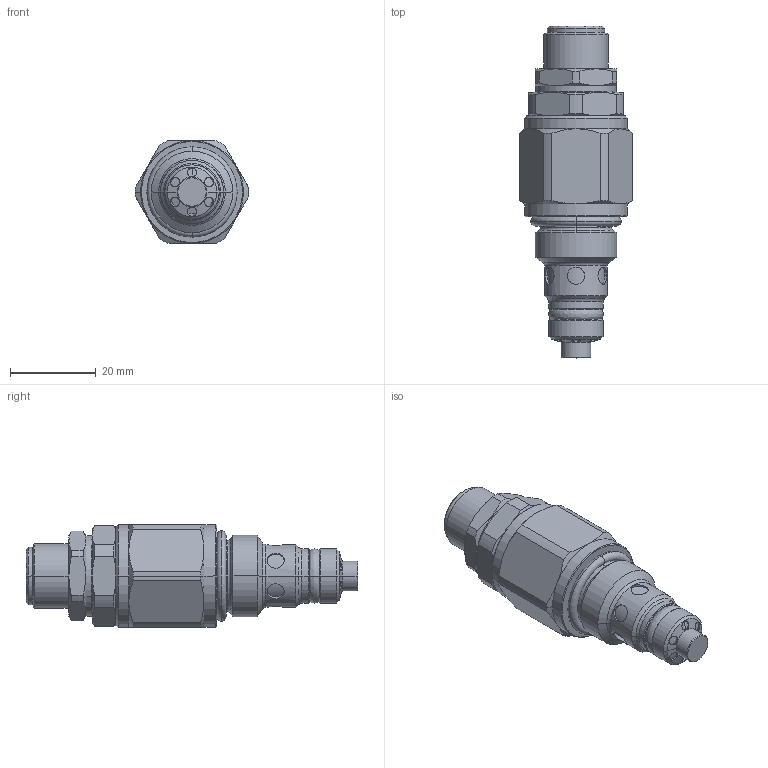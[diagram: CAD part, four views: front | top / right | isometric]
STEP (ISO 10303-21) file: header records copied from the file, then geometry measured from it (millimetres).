
FILE_DESCRIPTION (( 'STEP AP214' ), '1' );
FILE_NAME ('BESPU08.STEP', '2017-03-10T06:41:51', ( '' ), ( '' ), 'SwSTEP 2.0', 'SolidWorks 2016', '' );
FILE_SCHEMA (( 'AUTOMOTIVE_DESIGN' ));
Length unit declared in the file: millimetre
Products named in the file (1): BESPU08
Bounding box: 26.5 x 77.5 x 24 mm (x, y, z)
Volume: 22573.3 mm3; surface area: 6363.6 mm2
Topology: 3 solids, 4 shells, 216 faces, 485 edges, 292 vertices
Faces by surface type: cone 84, cylinder 78, plane 34, torus 16, bspline 4
Entity records: 7382 total; most frequent: CARTESIAN_POINT 2671, ORIENTED_EDGE 970, DIRECTION 966, EDGE_CURVE 485, AXIS2_PLACEMENT_3D 413, VERTEX_POINT 292, EDGE_LOOP 235, FACE_OUTER_BOUND 216
